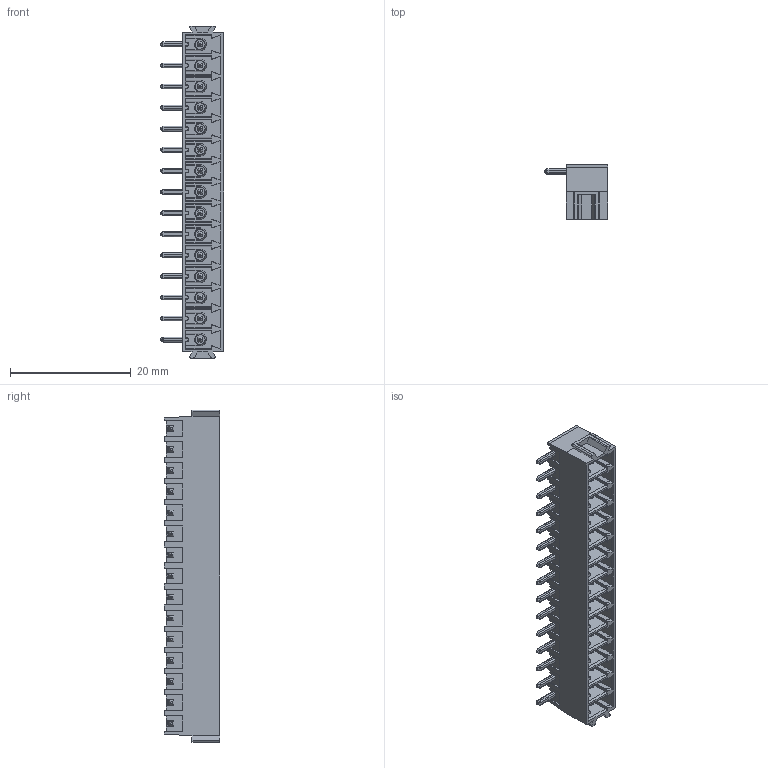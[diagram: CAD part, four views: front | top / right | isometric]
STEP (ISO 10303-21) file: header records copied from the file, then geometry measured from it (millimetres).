
FILE_DESCRIPTION (( 'STEP AP214' ), '1' );
FILE_NAME ('110-M-211-15.STEP', '2007-11-02T05:02:18', ( ' ' ), ( '' ), 'SwSTEP 2.0', 'SolidWorks 2007', '' );
FILE_SCHEMA (( 'AUTOMOTIVE_DESIGN' ));
Products named in the file (1): 110-M-211-15
Bounding box: 10.5 x 9.2 x 55.1 mm (x, y, z)
Volume: 1422.1 mm3; surface area: 4958.8 mm2
Topology: 1 solids, 1 shells, 2873 faces, 8100 edges, 5203 vertices
Faces by surface type: plane 1961, cylinder 694, cone 100, bspline 100, sphere 18
Entity records: 99178 total; most frequent: CARTESIAN_POINT 32535, ORIENTED_EDGE 16148, DIRECTION 10384, EDGE_CURVE 8074, VERTEX_POINT 5203, VECTOR 4352, LINE 4352, B_SPLINE_CURVE_WITH_KNOTS 3393
